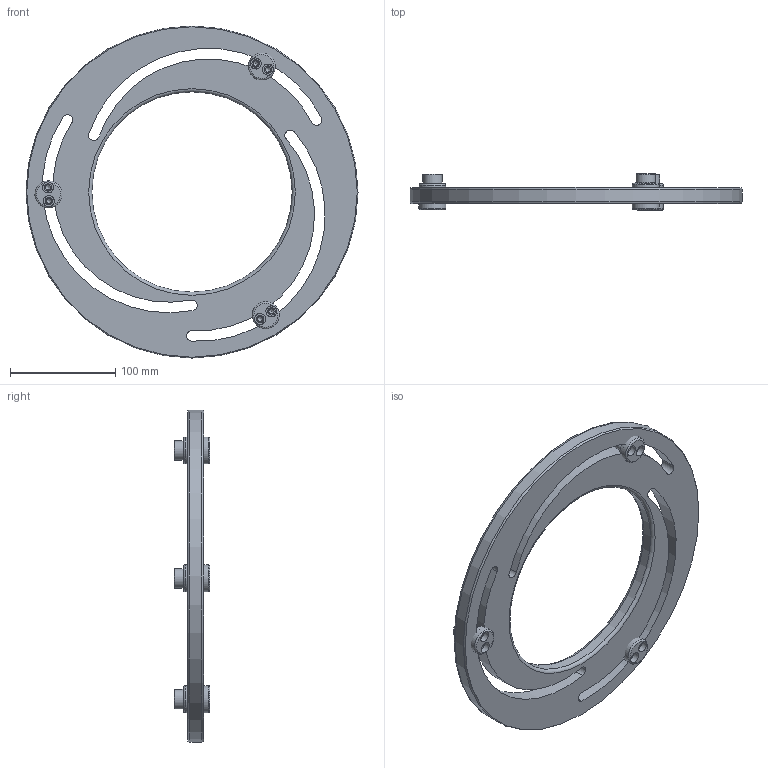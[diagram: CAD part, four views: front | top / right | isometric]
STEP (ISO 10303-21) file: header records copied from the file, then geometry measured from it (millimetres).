
FILE_DESCRIPTION(/* description */ (''),/* implementation_level */ '2;1');
FILE_NAME(/* name */ '',/* time_stamp */ '2024-09-12T09:55:37+03:00',/* author */ ('KanaanMD'),/* organization */ (''),/* preprocessor_version */ 'ST-DEVELOPER v19.2',/* originating_system */ 'Autodesk Inventor 2024',/* authorisation */ '');
FILE_SCHEMA (('AUTOMOTIVE_DESIGN { 1 0 10303 214 3 1 1 }'));
Length unit declared in the file: millimetre
Products named in the file (4): JB-12 приспособление 
для расточки кулачков 
токарного патрона; JB-12 приспособление 
для расточки кулачков 
токарного патрона_
1; Прижим Д2; Прижим Д1
Assembly tree (7 placements, depth 2):
  JB-12 приспособление 
для расточки кулачков 
токарного патрона
    JB-12 приспособление 
для расточки кулачков 
токарного патрона_
1
    Прижим Д2  x3
    Прижим Д1  x3
Bounding box: 315 x 34 x 315 mm (x, y, z)
Volume: 644272.3 mm3; surface area: 144351 mm2
Topology: 7 solids, 7 shells, 101 faces, 237 edges, 156 vertices
Faces by surface type: cylinder 53, plane 26, torus 13, cone 9
Full cylindrical faces by diameter (mm): 4.917 x6, 7 x6, 10.5 x6, 18.6 x3, 25.5 x3, 25.6 x3, 190 x1, 315 x1
Entity records: 1666 total; most frequent: DIRECTION 306, CARTESIAN_POINT 280, ORIENTED_EDGE 226, AXIS2_PLACEMENT_3D 138, EDGE_CURVE 113, CIRCLE 80, VERTEX_POINT 76, EDGE_LOOP 63
